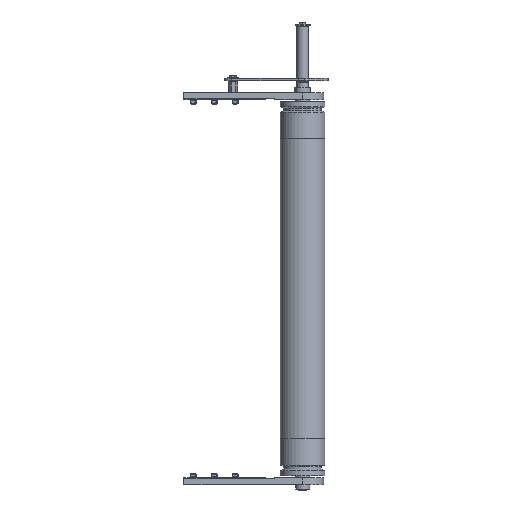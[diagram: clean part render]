
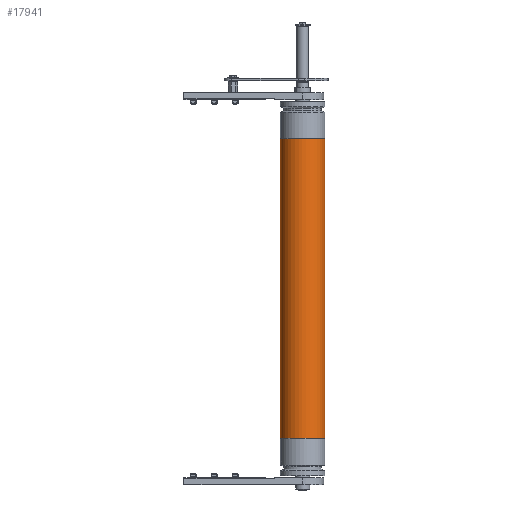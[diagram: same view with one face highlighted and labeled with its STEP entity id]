
A CAD part, front view. The second image highlights one B-rep face of the part: STEP entity #17941.
In plain terms, the highlighted cylindrical face has radius 48 mm (diameter 96 mm), a partial arc.
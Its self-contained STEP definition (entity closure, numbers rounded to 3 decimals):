
#779 = LINE ( 'NONE', #5017, #23464 ) ;
#856 = CARTESIAN_POINT ( 'NONE',  ( 321.5, 0., 48. ) ) ;
#2587 = CARTESIAN_POINT ( 'NONE',  ( 321.5, 0., 0. ) ) ;
#2812 = CARTESIAN_POINT ( 'NONE',  ( -321.5, 0., 48. ) ) ;
#3964 = ORIENTED_EDGE ( 'NONE', *, *, #14925, .F. ) ;
#4269 = FACE_OUTER_BOUND ( 'NONE', #10525, .T. ) ;
#4949 = AXIS2_PLACEMENT_3D ( 'NONE', #2587, #18907, #7866 ) ;
#5017 = CARTESIAN_POINT ( 'NONE',  ( 321.5, 0., 48. ) ) ;
#5358 = VERTEX_POINT ( 'NONE', #856 ) ;
#5508 = AXIS2_PLACEMENT_3D ( 'NONE', #23195, #17777, #10439 ) ;
#7234 = VERTEX_POINT ( 'NONE', #21815 ) ;
#7428 = LINE ( 'NONE', #21015, #14014 ) ;
#7480 = CARTESIAN_POINT ( 'NONE',  ( -321.5, 0., -48. ) ) ;
#7866 = DIRECTION ( 'NONE',  ( 0., 0., 1. ) ) ;
#8813 = VERTEX_POINT ( 'NONE', #2812 ) ;
#8867 = DIRECTION ( 'NONE',  ( -1., 0., 0. ) ) ;
#10369 = DIRECTION ( 'NONE',  ( 0., 0., -1. ) ) ;
#10439 = DIRECTION ( 'NONE',  ( 0., 0., -1. ) ) ;
#10525 = EDGE_LOOP ( 'NONE', ( #13604, #3964, #12045, #15282 ) ) ;
#12045 = ORIENTED_EDGE ( 'NONE', *, *, #20311, .T. ) ;
#13604 = ORIENTED_EDGE ( 'NONE', *, *, #21671, .F. ) ;
#14014 = VECTOR ( 'NONE', #20789, 1000. ) ;
#14925 = EDGE_CURVE ( 'NONE', #5358, #7234, #21924, .T. ) ;
#15282 = ORIENTED_EDGE ( 'NONE', *, *, #22395, .T. ) ;
#15744 = CYLINDRICAL_SURFACE ( 'NONE', #4949, 48. ) ;
#17777 = DIRECTION ( 'NONE',  ( 1., 0., 0. ) ) ;
#17941 = ADVANCED_FACE ( 'NONE', ( #4269 ), #15744, .T. ) ;
#18907 = DIRECTION ( 'NONE',  ( -1., 0., 0. ) ) ;
#19442 = AXIS2_PLACEMENT_3D ( 'NONE', #23131, #19657, #10369 ) ;
#19657 = DIRECTION ( 'NONE',  ( 1., 0., 0. ) ) ;
#20311 = EDGE_CURVE ( 'NONE', #5358, #8813, #779, .T. ) ;
#20470 = VERTEX_POINT ( 'NONE', #7480 ) ;
#20789 = DIRECTION ( 'NONE',  ( -1., 0., 0. ) ) ;
#20872 = CIRCLE ( 'NONE', #19442, 48. ) ;
#21015 = CARTESIAN_POINT ( 'NONE',  ( 321.5, 0., -48. ) ) ;
#21671 = EDGE_CURVE ( 'NONE', #7234, #20470, #7428, .T. ) ;
#21815 = CARTESIAN_POINT ( 'NONE',  ( 321.5, 0., -48. ) ) ;
#21924 = CIRCLE ( 'NONE', #5508, 48. ) ;
#22395 = EDGE_CURVE ( 'NONE', #8813, #20470, #20872, .T. ) ;
#23131 = CARTESIAN_POINT ( 'NONE',  ( -321.5, 0., 0. ) ) ;
#23195 = CARTESIAN_POINT ( 'NONE',  ( 321.5, 0., 0. ) ) ;
#23464 = VECTOR ( 'NONE', #8867, 1000. ) ;
